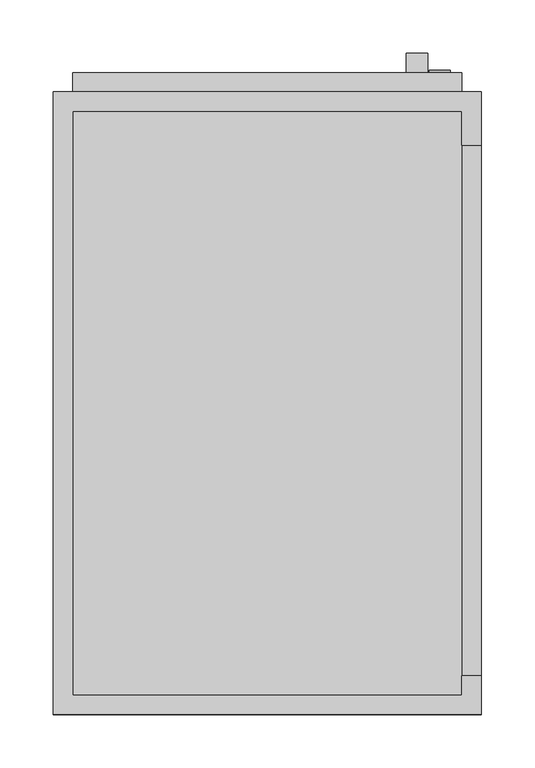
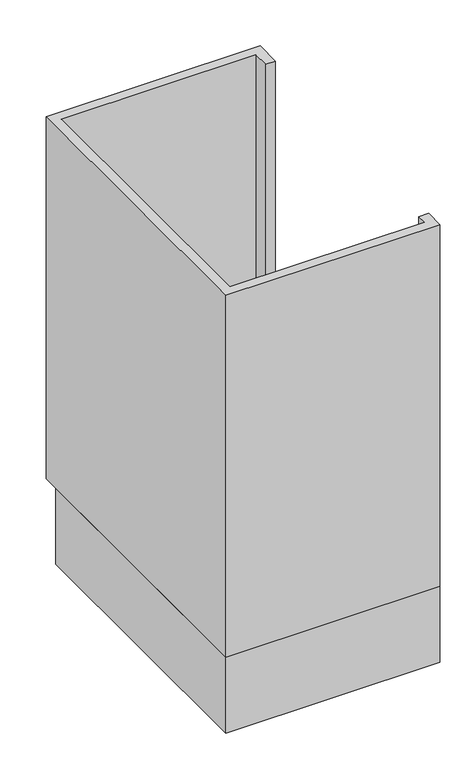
"""IFC4 building model written with IfcOpenShell, lengths in millimetres: proxy geometry, BIMHealth-400x600mm_Base_Unit_Lockable-LOD2A-v1 : BIMHealth-400x600mm_Base_Unit_Lockable-LOD2A-v1."""

from ifc_helpers import new_model, si_unit, point, frame, frame_2d, origin, origin_with_axes, place, context, project, spatial, polyline, circle_curve, trimmed, segment, composite_curve, outline, extrude, faceted_brep, source, transform, mapped, element, save


def generic_models_cf329d1a(model_context):
    return source(origin(), model_context, "Body", "SolidModel", [
        extrude(outline(composite_curve([segment(trimmed(circle_curve(frame_2d((499.5110604, 361.1811485)), 10.0), [point((499.5110604, 351.1811485))], [point((499.5110604, 371.1811485))], False, "CARTESIAN"), True, "CONTINUOUS"), segment(trimmed(circle_curve(frame_2d((499.5110604, 361.1811485)), 10.0), [point((499.5110604, 371.1811485))], [point((499.5110604, 351.1811485))], False, "CARTESIAN"), True, "CONTINUOUS")], self_intersect=False), holes=[composite_curve([segment(trimmed(circle_curve(frame_2d((499.5110604, 361.1811485)), 7.5), [point((499.5110604, 353.6811485))], [point((499.5110604, 368.6811485))], True, "CARTESIAN"), True, "CONTINUOUS"), segment(trimmed(circle_curve(frame_2d((499.5110604, 361.1811485)), 7.5), [point((499.5110604, 368.6811485))], [point((499.5110604, 353.6811485))], True, "CARTESIAN"), True, "CONTINUOUS")], self_intersect=False)]), frame((0.0, 600.0, 0.0), z_axis=(0.0, 1.0, 0.0), x_axis=(0.0, 0.0, 1.0)), (0.0, 0.0, 1.0), 2.5),
        faceted_brep([(400.0, 582.0, 150.0), (400.0, 532.0, 150.0), (382.0, 532.0, 150.0), (382.0, 36.3343083, 150.0), (400.0, 36.3343083, 150.0), (400.0, 0.0, 150.0), (0.0, 0.0, 150.0), (0.0, 582.0, 150.0), (18.0, 18.0, 865.0), (18.0, 18.0, 168.0), (18.0, 564.0, 168.0), (18.0, 564.0, 865.0), (382.0, 18.0, 865.0), (382.0, 18.0, 168.0), (382.0, 564.0, 168.0), (382.0, 564.0, 865.0), (382.0, 532.0, 168.0), (382.0, 36.3343083, 168.0), (400.0, 582.0, 865.0), (0.0, 582.0, 865.0), (0.0, 0.0, 865.0), (400.0, 0.0, 865.0), (400.0, 36.3343083, 865.0), (382.0, 36.3343083, 865.0), (382.0, 532.0, 865.0), (400.0, 532.0, 865.0)], [[[0, 1, 2, 3, 4, 5, 6, 7]], [[8, 9, 10, 11]], [[12, 13, 9, 8]], [[11, 10, 14, 15]], [[16, 14, 10, 9, 13, 17]], [[18, 19, 20, 21, 22, 23, 12, 8, 11, 15, 24, 25]], [[20, 6, 5, 21]], [[19, 7, 6, 20]], [[18, 0, 7, 19]], [[2, 16, 17, 3]], [[25, 1, 0, 18]], [[24, 16, 2, 1, 25]], [[15, 14, 16, 24]], [[23, 17, 13, 12]], [[22, 4, 3, 17, 23]], [[21, 5, 4, 22]]]),
        extrude(outline(polyline([(350.0, 618.0), (350.0, 600.0), (330.0, 600.0), (330.0, 618.0), (350.0, 618.0)])), frame((0.0, 0.0, 540.0), z_axis=(0.0, 0.0, 1.0), x_axis=(1.0, 0.0, 0.0)), (0.0, 0.0, 1.0), 200.0),
        extrude(outline(polyline([(382.0, 582.0), (18.0, 582.0), (18.0, 600.0), (382.0, 600.0), (382.0, 582.0)])), frame((0.0, 0.0, 188.0), z_axis=(0.0, 0.0, 1.0), x_axis=(1.0, 0.0, 0.0)), (0.0, 0.0, 1.0), 652.0),
        extrude(outline(polyline([(400.0, 0.0), (0.0, 0.0), (0.0, 550.0), (400.0, 550.0), (400.0, 0.0)]), holes=[polyline([(382.0, 18.0), (382.0, 532.0), (18.0, 532.0), (18.0, 18.0), (382.0, 18.0)])]), origin_with_axes(), (0.0, 0.0, 1.0), 150.0),
    ])


if __name__ == "__main__":
    model = new_model("IFC4")
    model_context = context("Model", 3, world=origin())
    ifc_project = project(units=[si_unit("LENGTHUNIT", "METRE", prefix="MILLI")], contexts=[model_context])
    site = spatial("IfcSite", under=ifc_project)
    building = spatial("IfcBuilding", under=site)
    placement = place(None, origin())
    generic_models_shape = generic_models_cf329d1a(model_context)
    element("IfcBuildingElementProxy", 1, Name="BIMHealth-400x600mm_Base_Unit_Lockable-LOD2A-v1 : BIMHealth-400x600mm_Base_Unit_Lockable-LOD2A-v1", ObjectType="BIMHealth-400x600mm_Base_Unit_Lockable-LOD2A-v1 : BIMHealth-400x600mm_Base_Unit_Lockable-LOD2A-v1", at=placement, inside=building, context=model_context, shape_type="MappedRepresentation", body=[
        mapped(generic_models_shape, transform((0.0, 0.0, 0.0), x_axis=(1.0, 0.0, 0.0), y_axis=(0.0, 1.0, 0.0), z_axis=(0.0, 0.0, 1.0))),
    ])
    save(model, "model.ifc")
